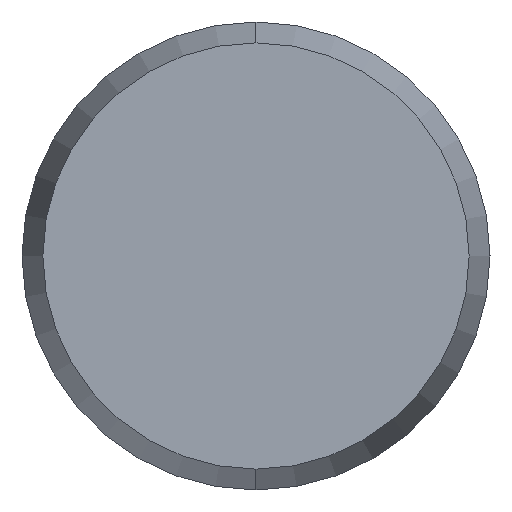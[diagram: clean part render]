
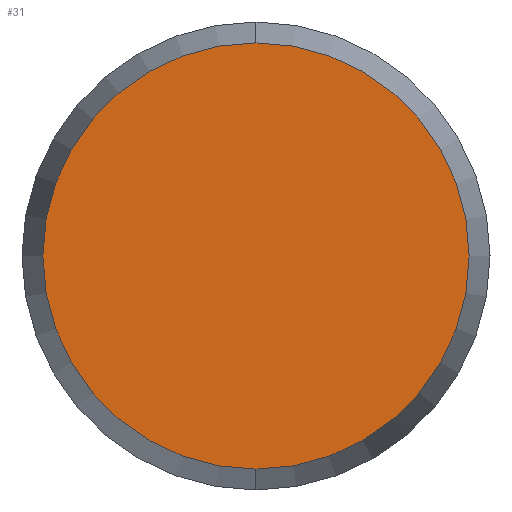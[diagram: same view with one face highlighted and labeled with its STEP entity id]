
A CAD part, left-side view. The second image highlights one B-rep face of the part: STEP entity #31.
In plain terms, the highlighted planar face has unit normal (-1, 0, 0).
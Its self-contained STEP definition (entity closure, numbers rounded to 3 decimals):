
#7 = EDGE_CURVE ( 'NONE', #36, #35, #76, .T. ) ;
#31 = ADVANCED_FACE ( 'NONE', ( #91 ), #90, .F. ) ;
#32 = EDGE_LOOP ( 'NONE', ( #52, #51 ) ) ;
#34 = EDGE_CURVE ( 'NONE', #35, #36, #162, .T. ) ;
#35 = VERTEX_POINT ( 'NONE', #158 ) ;
#36 = VERTEX_POINT ( 'NONE', #157 ) ;
#51 = ORIENTED_EDGE ( 'NONE', *, *, #7, .F. ) ;
#52 = ORIENTED_EDGE ( 'NONE', *, *, #34, .F. ) ;
#72 = DIRECTION ( 'NONE',  ( 0., 0., -1. ) ) ;
#73 = DIRECTION ( 'NONE',  ( 1., 0., 0. ) ) ;
#74 = CARTESIAN_POINT ( 'NONE',  ( -9., 0., 0. ) ) ;
#75 = AXIS2_PLACEMENT_3D ( 'NONE', #74, #73, #72 ) ;
#76 = CIRCLE ( 'NONE', #75, 2.732 ) ;
#89 = AXIS2_PLACEMENT_3D ( 'NONE', #165, #164, #163 ) ;
#90 = PLANE ( 'NONE',  #89 ) ;
#91 = FACE_OUTER_BOUND ( 'NONE', #32, .T. ) ;
#157 = CARTESIAN_POINT ( 'NONE',  ( -9., 0., -2.732 ) ) ;
#158 = CARTESIAN_POINT ( 'NONE',  ( -9., 0., 2.732 ) ) ;
#159 = DIRECTION ( 'NONE',  ( 0., 0., -1. ) ) ;
#160 = DIRECTION ( 'NONE',  ( 1., 0., 0. ) ) ;
#161 = AXIS2_PLACEMENT_3D ( 'NONE', #166, #160, #159 ) ;
#162 = CIRCLE ( 'NONE', #161, 2.732 ) ;
#163 = DIRECTION ( 'NONE',  ( 0., 0., -1. ) ) ;
#164 = DIRECTION ( 'NONE',  ( 1., 0., 0. ) ) ;
#165 = CARTESIAN_POINT ( 'NONE',  ( -9., 0., 0. ) ) ;
#166 = CARTESIAN_POINT ( 'NONE',  ( -9., 0., 0. ) ) ;
